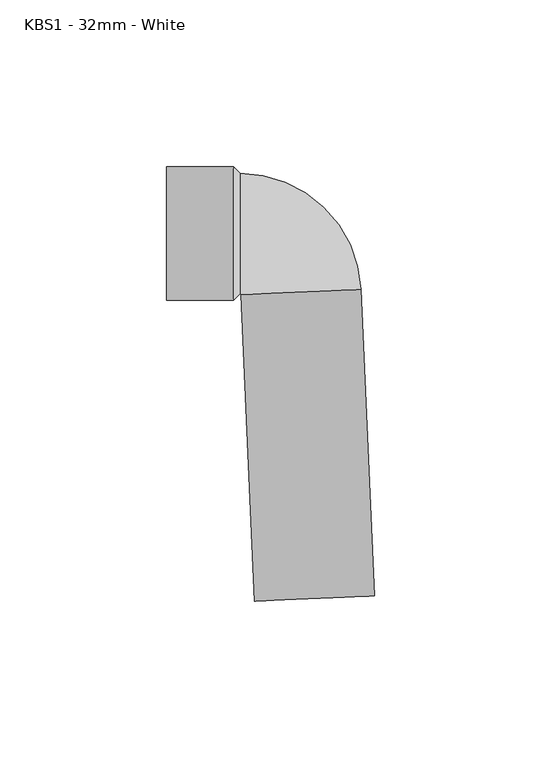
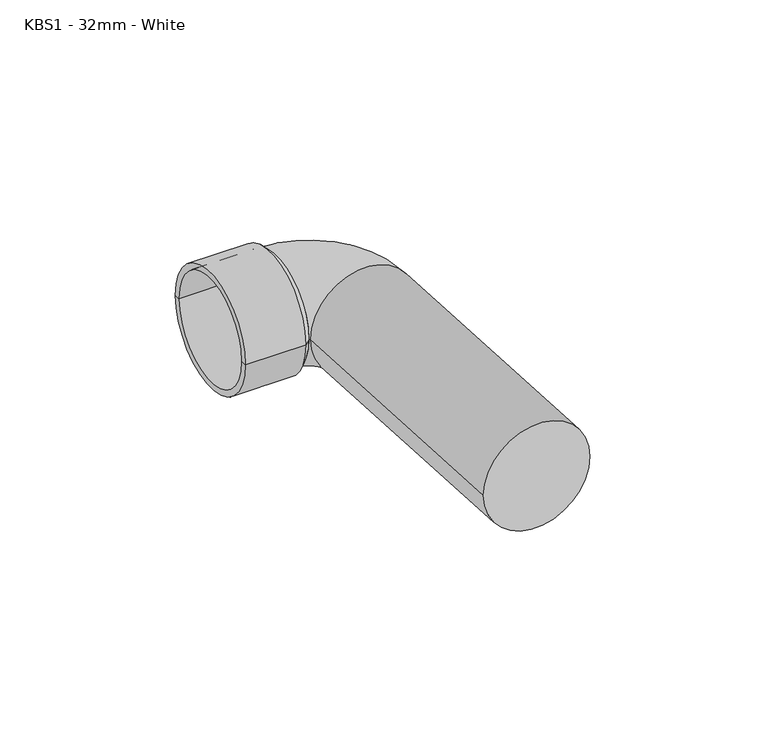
"""IFC4 building model written with IfcOpenShell, lengths in millimetres: pipe fitting geometry, MarleyPlumbingAndDrainage_PipeFitting_LongSpigotBend87.5 : KBS1 - 32mm - White."""

import ifcopenshell
import ifcopenshell.guid

model = None  # the IFC model being written
_history = None  # IfcOwnerHistory: only IFC2X3 demands one
_inside = {}  # id of a spatial element -> (the spatial element, [elements in it])
_under = {}  # id of a project, library or spatial element -> (it, [spatial elements below it])
_declared = {}  # id of a project -> (the project, [libraries it declares])
_typed = {}  # id of a type object -> (the type object, [elements of that type])
_made_of = {}  # id of a material, layer set ... -> (it, [elements and type objects made of it])


def new_model(schema):
    """Start an empty IFC model of exactly this schema.

    Asked for "IFC4X3", IfcOpenShell would pick the latest addendum, in which some entities
    have other attributes; the version numbers below select the first issue.
    IFC2X3 requires an IfcOwnerHistory on every rooted entity: one is made here for all.
    """
    global model, _history
    if schema == "IFC4X3":
        model = ifcopenshell.file(schema_version=(4, 3, 0, 0))
    else:
        model = ifcopenshell.file(schema=schema)
    _inside.clear()
    _under.clear()
    _declared.clear()
    _typed.clear()
    _made_of.clear()
    _history = None
    if model.schema == "IFC2X3":
        org = make("IfcOrganization", Name="unknown")
        user = make(
            "IfcPersonAndOrganization",
            ThePerson=make("IfcPerson", FamilyName="unknown"),
            TheOrganization=org,
        )
        app = make(
            "IfcApplication",
            ApplicationDeveloper=org,
            Version="unknown",
            ApplicationFullName="unknown",
            ApplicationIdentifier="unknown",
        )
        _history = make(
            "IfcOwnerHistory",
            OwningUser=user,
            OwningApplication=app,
            ChangeAction="ADDED",
            CreationDate=0,
        )
    return model


def make(cls, **values):
    """One entity of the class cls with the attributes given. An attribute that is None is left unset."""
    return model.create_entity(
        cls, **{name: value for name, value in values.items() if value is not None}
    )


def rooted(cls, **values):
    """An entity with a GlobalId (a new one), such as an element, a storey or a relation."""
    return make(cls, GlobalId=ifcopenshell.guid.new(), OwnerHistory=_history, **values)


def si_unit(unit_type, name, prefix=None):
    """IfcSIUnit, for example si_unit("LENGTHUNIT", "METRE", prefix="MILLI")."""
    return make("IfcSIUnit", UnitType=unit_type, Prefix=prefix, Name=name)


def assignment(units):
    """IfcUnitAssignment: the units of a project."""
    return None if units is None else make("IfcUnitAssignment", Units=units)


def point(xyz):
    """IfcCartesianPoint."""
    return None if xyz is None else make("IfcCartesianPoint", Coordinates=xyz)


def direction(xyz):
    """IfcDirection."""
    return None if xyz is None else make("IfcDirection", DirectionRatios=xyz)


def frame(location, z_axis=None, x_axis=None):
    """IfcAxis2Placement3D, a coordinate frame: its origin and axes. An axis left out is left unset."""
    return make(
        "IfcAxis2Placement3D",
        Location=point(location),
        Axis=direction(z_axis),
        RefDirection=direction(x_axis),
    )


def origin():
    """The frame at (0, 0, 0) with its axes left unset."""
    return frame((0.0, 0.0, 0.0))


def place(relative_to, where):
    """IfcLocalPlacement: puts the frame where relative to a parent placement (None: the world)."""
    return make(
        "IfcLocalPlacement", PlacementRelTo=relative_to, RelativePlacement=where
    )


def context(
    kind, dimensions, precision=None, world=None, true_north=None, identifier=None
):
    """IfcGeometricRepresentationContext, for example the 3D "Model" context."""
    return make(
        "IfcGeometricRepresentationContext",
        ContextIdentifier=identifier,
        ContextType=kind,
        CoordinateSpaceDimension=dimensions,
        Precision=precision,
        WorldCoordinateSystem=world,
        TrueNorth=true_north,
    )


def project(units=None, contexts=None):
    """IfcProject with its units and contexts."""
    return rooted(
        "IfcProject",
        Name="project",
        RepresentationContexts=contexts,
        UnitsInContext=assignment(units),
    )


def spatial(cls, under=None, at=None, **own):
    """A site, building, storey or space (cls), placed at a placement, below another one or the project."""
    s = rooted(cls, ObjectPlacement=at, **own)
    if under is not None:
        _under.setdefault(under.id(), (under, []))[1].append(s)
    return s


def polyline(points):
    """IfcPolyline through the points."""
    return make("IfcPolyline", Points=[point(p) for p in points])


def circle_curve(where, radius):
    """IfcCircle in the frame where."""
    return make("IfcCircle", Position=where, Radius=radius)


def ellipse_curve(where, semi_axis1, semi_axis2):
    """IfcEllipse in the frame where."""
    return make(
        "IfcEllipse", Position=where, SemiAxis1=semi_axis1, SemiAxis2=semi_axis2
    )


def trimmed(basis, trim1, trim2, sense, master):
    """IfcTrimmedCurve: the piece of a basis curve between two trims."""
    return make(
        "IfcTrimmedCurve",
        BasisCurve=basis,
        Trim1=trim1,
        Trim2=trim2,
        SenseAgreement=sense,
        MasterRepresentation=master,
    )


def shape(context_of_items, identifier, shape_type, items):
    """IfcShapeRepresentation: the items that make up one representation, for example the "Body"."""
    return make(
        "IfcShapeRepresentation",
        ContextOfItems=context_of_items,
        RepresentationIdentifier=identifier,
        RepresentationType=shape_type,
        Items=items,
    )


def source(mapping_origin, context_of_items, identifier, shape_type, items):
    """IfcRepresentationMap: a shape defined once, which mapped items show again and again."""
    return make(
        "IfcRepresentationMap",
        MappingOrigin=mapping_origin,
        MappedRepresentation=shape(context_of_items, identifier, shape_type, items),
    )


def transform(
    local_origin,
    x_axis=None,
    y_axis=None,
    z_axis=None,
    scale=None,
    scale2=None,
    scale3=None,
    uniform=True,
):
    """IfcCartesianTransformationOperator3D, or its non-uniform kind. x_axis, y_axis, z_axis: its Axis1, 2, 3."""
    if uniform:
        return make(
            "IfcCartesianTransformationOperator3D",
            Axis1=direction(x_axis),
            Axis2=direction(y_axis),
            LocalOrigin=point(local_origin),
            Scale=scale,
            Axis3=direction(z_axis),
        )
    return make(
        "IfcCartesianTransformationOperator3DnonUniform",
        Axis1=direction(x_axis),
        Axis2=direction(y_axis),
        LocalOrigin=point(local_origin),
        Scale=scale,
        Axis3=direction(z_axis),
        Scale2=scale2,
        Scale3=scale3,
    )


def mapped(mapping_source, mapping_target):
    """IfcMappedItem: shows the shape of a source again, moved by a transform."""
    return make(
        "IfcMappedItem", MappingSource=mapping_source, MappingTarget=mapping_target
    )


def made_of(thing, what):
    """Note that an element or type object is made of a material, layer set ...; save() writes the relation."""
    if what is not None:
        _made_of.setdefault(what.id(), (what, []))[1].append(thing)
    return thing


def element(
    cls,
    number,
    at=None,
    inside=None,
    cuts=None,
    type_object=None,
    material=None,
    context=None,
    identifier="Body",
    shape_type=None,
    held_by="IfcProductDefinitionShape",
    body=None,
    shapes=None,
    **own,
):
    """One element of the class cls, such as IfcWall. Its Tag is "e" and its number.

    at: its placement. inside: the storey or other place that contains it. cuts: it is an
    opening in that element (IfcRelVoidsElement). A single representation is given by context,
    identifier, shape_type and body (its items); several are given by shapes. held_by: the class
    of the entity that holds the representations. save() writes the other relations.
    """
    e = rooted(cls, Tag="e%d" % number, ObjectPlacement=at, **own)
    if body is not None:
        shapes = [shape(context, identifier, shape_type, body)]
    if shapes is not None:
        e.Representation = make(held_by, Representations=shapes)
    if inside is not None:
        _inside.setdefault(inside.id(), (inside, []))[1].append(e)
    if cuts is not None:
        rooted(
            "IfcRelVoidsElement", RelatingBuildingElement=cuts, RelatedOpeningElement=e
        )
    if type_object is not None:
        _typed.setdefault(type_object.id(), (type_object, []))[1].append(e)
    return made_of(e, material)


def aggregate(whole, parts):
    """IfcRelAggregates: a whole, such as a stair, and the parts it consists of."""
    return rooted("IfcRelAggregates", RelatingObject=whole, RelatedObjects=parts)


def save(model, path):
    """Write the relations noted so far, then the file.

    IfcRelAggregates (storeys below a building ...), IfcRelContainedInSpatialStructure (elements
    in a storey), IfcRelDefinesByType, IfcRelAssociatesMaterial and IfcRelDeclares: one each for
    every whole, place, type object, material and project.
    """
    for whole, parts in _under.values():
        aggregate(whole, parts)
    for where, things in _inside.values():
        rooted(
            "IfcRelContainedInSpatialStructure",
            RelatedElements=things,
            RelatingStructure=where,
        )
    for kind, things in _typed.values():
        rooted("IfcRelDefinesByType", RelatedObjects=things, RelatingType=kind)
    for what, things in _made_of.values():
        rooted("IfcRelAssociatesMaterial", RelatedObjects=things, RelatingMaterial=what)
    for by, libraries in _declared.values():
        rooted("IfcRelDeclares", RelatingContext=by, RelatedDefinitions=libraries)
    model.write(path)


def plane_surface(at):
    """IfcPlane: the flat surface through the origin of the frame at, square to its z axis."""
    return make("IfcPlane", Position=at)


def cylinder_surface(at, radius):
    """IfcCylindricalSurface: all points at the distance radius from the z axis of the frame at."""
    return make("IfcCylindricalSurface", Position=at, Radius=radius)


def revolved_surface(curve, axis_point, axis_direction):
    """IfcSurfaceOfRevolution: the curve turned about the line through axis_point along axis_direction."""
    return make(
        "IfcSurfaceOfRevolution",
        SweptCurve=make("IfcArbitraryOpenProfileDef", ProfileType="CURVE", Curve=curve),
        AxisPosition=make("IfcAxis1Placement", Location=point(axis_point), Axis=direction(axis_direction)),
    )


def advanced_brep(points, edges, surfaces, faces):
    """IfcAdvancedBrep: a solid bounded by faces that lie on surfaces and meet in shared edges.

    An edge is (start, end): straight between two places in points (the first is 0);
    or (start, end, curve); or (start, end, curve, False) where it runs against its curve.
    A face is (place in surfaces, loops), or (place, loops, False) where it looks against
    its surface's normal. A loop lists edges by number (the first is 1), with a minus sign
    where the edge is run from its end to its start. The first loop is the outer one.
    """
    corners = [point(p) for p in points]
    vertices = [make("IfcVertexPoint", VertexGeometry=c) for c in corners]
    made = []
    for start, end, *more in edges:
        made.append(
            make(
                "IfcEdgeCurve",
                EdgeStart=vertices[start],
                EdgeEnd=vertices[end],
                EdgeGeometry=more[0] if more else make("IfcPolyline", Points=[corners[start], corners[end]]),
                SameSense=more[1] if len(more) > 1 else True,
            )
        )
    hull = []
    for where, loops, *sense in faces:
        bounds = []
        for j, loop in enumerate(loops):
            ring = [make("IfcOrientedEdge", EdgeElement=made[abs(k) - 1], Orientation=k > 0) for k in loop]
            bounds.append(
                make(
                    "IfcFaceOuterBound" if j == 0 else "IfcFaceBound",
                    Bound=make("IfcEdgeLoop", EdgeList=ring),
                    Orientation=True,
                )
            )
        hull.append(make("IfcAdvancedFace", Bounds=bounds, FaceSurface=surfaces[where], SameSense=sense[0] if sense else True))
    return make("IfcAdvancedBrep", Outer=make("IfcClosedShell", CfsFaces=hull))


def kbs1_32mm_white_f2bac062(model_context):
    return source(origin(), model_context, "Body", "AdvancedBrep", [
        advanced_brep(
        [(-54.285227, -18.0, 0.0), (-54.285227, -20.0, 0.0), (-54.285227, 20.0, 0.0), (-54.285227, 18.0, 0.0), (-34.285227, -18.0, 0.0), (-34.285227, 18.0, 0.0), (-34.285227, 0.0, 0.0), (-32.285227, -18.0, 0.0), (-32.285227, 0.0, 0.0), (-32.285227, 18.0, 0.0), (-34.285227, -20.0, 0.0), (-34.285227, 20.0, 0.0)],
        [
            (0, 1),
            (1, 2, circle_curve(frame((-54.285227, 0.0, 0.0), z_axis=(-1.0, 0.0, 0.0), x_axis=(0.0, 1.0, 0.0)), 20.0)),
            (2, 3),
            (3, 0, circle_curve(frame((-54.285227, 0.0, 0.0), z_axis=(1.0, 0.0, 0.0), x_axis=(0.0, 1.0, 0.0)), 18.0)),
            (2, 1, circle_curve(frame((-54.285227, 0.0, 0.0), z_axis=(-1.0, 0.0, 0.0), x_axis=(0.0, 1.0, 0.0)), 20.0)),
            (0, 3, circle_curve(frame((-54.285227, 0.0, 0.0), z_axis=(1.0, 0.0, 0.0), x_axis=(0.0, 1.0, 0.0)), 18.0)),
            (4, 0),
            (3, 5),
            (5, 4, circle_curve(frame((-34.285227, 0.0, 0.0), z_axis=(1.0, 0.0, 0.0), x_axis=(0.0, 1.0, 0.0)), 18.0)),
            (4, 5, circle_curve(frame((-34.285227, 0.0, 0.0), z_axis=(1.0, 0.0, 0.0), x_axis=(0.0, 1.0, 0.0)), 18.0)),
            (6, 4),
            (5, 6),
            (7, 8),
            (8, 9),
            (9, 7, circle_curve(frame((-32.285227, 0.0, 0.0), z_axis=(1.0, 0.0, 0.0), x_axis=(0.0, 1.0, 0.0)), 18.0)),
            (7, 9, circle_curve(frame((-32.285227, 0.0, 0.0), z_axis=(1.0, 0.0, 0.0), x_axis=(0.0, 1.0, 0.0)), 18.0)),
            (10, 7),
            (9, 11),
            (11, 10, circle_curve(frame((-34.285227, 0.0, 0.0), z_axis=(1.0, 0.0, 0.0), x_axis=(0.0, 1.0, 0.0)), 20.0)),
            (10, 11, circle_curve(frame((-34.285227, 0.0, 0.0), z_axis=(1.0, 0.0, 0.0), x_axis=(0.0, 1.0, 0.0)), 20.0)),
            (1, 10),
            (11, 2),
        ],
        [
            plane_surface(frame((-54.285227, 0.0, 0.0), z_axis=(-1.0, 0.0, 0.0), x_axis=(0.0, 1.0, 0.0))),
            revolved_surface(polyline([(-54.285227, 18.0, 0.0), (-34.285227, 18.0, 0.0)]), (-92.2682669, 0.0, 0.0), (-1.0, 0.0, 0.0)),
            plane_surface(frame((-34.285227, 0.0, 0.0), z_axis=(-1.0, 0.0, 0.0), x_axis=(0.0, 1.0, 0.0))),
            plane_surface(frame((-32.285227, 0.0, 0.0), z_axis=(1.0, 0.0, 0.0), x_axis=(0.0, 1.0, 0.0))),
            revolved_surface(polyline([(-32.285227, 18.0, 0.0), (-34.285227, 20.0, 0.0)]), (-92.2682669, 0.0, 0.0), (-1.0, 0.0, 0.0)),
            cylinder_surface(frame((-92.2682669, 0.0, 0.0), z_axis=(-1.0, 0.0, 0.0), x_axis=(0.0, 1.0, 0.0)), 20.0),
        ],
        [
            (0, [[1, 2, 3, 4]]),
            (0, [[-3, 5, -1, 6]]),
            (1, [[7, -4, 8, 9]]),
            (1, [[-8, -6, -7, 10]]),
            (2, [[11, -9, 12]]),
            (2, [[-12, -10, -11]]),
            (3, [[13, 14, 15]]),
            (3, [[-14, -13, 16]]),
            (4, [[17, -15, 18, 19]]),
            (4, [[-18, -16, -17, 20]]),
            (5, [[21, -19, 22, -2]]),
            (5, [[-22, -20, -21, -5]]),
        ],
    ),
        advanced_brep(
        [(-32.285227, 18.0, 0.0), (-32.285227, -18.0, 0.0), (-31.9855125, -18.2869142, 0.0), (3.9802235, -16.7166162, 0.0), (7.9932071, -108.6290526, 0.0), (-27.9725289, -110.1993506, 0.0)],
        [
            (0, 1, circle_curve(frame((-32.285227, 0.0, 0.0), z_axis=(-1.0, 0.0, 0.0), x_axis=(0.0, -1.0, 0.0)), 18.0)),
            (1, 0, circle_curve(frame((-32.285227, 0.0, 0.0), z_axis=(-1.0, 0.0, 0.0), x_axis=(0.0, -1.0, 0.0)), 18.0)),
            (2, 3, circle_curve(frame((-14.0026445, -17.5017652, 0.0), z_axis=(-0.04361938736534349, 0.9990482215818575, 0.0), x_axis=(-0.9990482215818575, -0.04361938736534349, 0.0)), 18.0)),
            (3, 0, circle_curve(frame((-32.285227, -18.3, 0.0), z_axis=(0.0, 0.0, 1.0), x_axis=(0.0, 1.0, 0.0)), 36.3)),
            (1, 2, circle_curve(frame((-32.285227, -18.3, 0.0), z_axis=(0.0, 0.0, -1.0), x_axis=(0.0, 1.0, 0.0)), 0.3)),
            (3, 2, circle_curve(frame((-14.0026445, -17.5017652, 0.0), z_axis=(-0.0436193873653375, 0.9990482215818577, 0.0), x_axis=(-0.9990482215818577, -0.0436193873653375, 0.0)), 18.0)),
            (4, 5, circle_curve(frame((-9.9896609, -109.4142016, 0.0), z_axis=(0.04361938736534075, -0.9990482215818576, 0.0), x_axis=(-0.9990482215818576, -0.04361938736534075, 0.0)), 18.0)),
            (5, 4, circle_curve(frame((-9.9896609, -109.4142016, 0.0), z_axis=(0.04361938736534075, -0.9990482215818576, 0.0), x_axis=(-0.9990482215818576, -0.04361938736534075, 0.0)), 18.0)),
            (2, 5),
            (4, 3),
        ],
        [
            plane_surface(frame((-32.285227, 0.0, 0.0), z_axis=(-1.0, 0.0, 0.0), x_axis=(0.0, 0.0, 1.0))),
            revolved_surface(trimmed(ellipse_curve(frame((-32.285227, 0.0, 0.0), z_axis=(1.0, 0.0, 0.0), x_axis=(0.0, -1.0, 0.0)), 18.0, 18.0), [point((-32.285227, 18.0, 0.0))], [point((-32.285227, -18.0, 0.0))], True, "CARTESIAN"), (-32.285227, -18.3, 0.0), (0.0, 0.0, 1.0)),
            revolved_surface(trimmed(ellipse_curve(frame((-32.285227, 0.0, 0.0), z_axis=(1.0, 0.0, 0.0), x_axis=(0.0, -1.0, 0.0)), 18.0, 18.0), [point((-32.285227, -18.0, 0.0))], [point((-32.285227, 18.0, 0.0))], True, "CARTESIAN"), (-32.285227, -18.3, 0.0), (0.0, 0.0, 1.0)),
            plane_surface(frame((-9.9896609, -109.4142016, 0.0), z_axis=(0.043619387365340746, -0.9990482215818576, 0.0), x_axis=(0.0, 0.0, 1.0))),
            cylinder_surface(frame((-14.0026445, -17.5017652, 0.0), z_axis=(-0.04361938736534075, 0.9990482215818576, 0.0), x_axis=(-0.9990482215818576, -0.04361938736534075, 0.0)), 18.0),
        ],
        [
            (0, [[1, 2]]),
            (1, [[3, 4, -2, 5]]),
            (2, [[6, -5, -1, -4]]),
            (3, [[7, 8]]),
            (4, [[9, -7, 10, -3]]),
            (4, [[-10, -8, -9, -6]]),
        ],
    ),
    ])


if __name__ == "__main__":
    model = new_model("IFC4")
    model_context = context("Model", 3, world=origin())
    ifc_project = project(units=[si_unit("LENGTHUNIT", "METRE", prefix="MILLI")], contexts=[model_context])
    site = spatial("IfcSite", under=ifc_project)
    building = spatial("IfcBuilding", under=site)
    placement = place(None, origin())
    kbs1_32mm_white_shape = kbs1_32mm_white_f2bac062(model_context)
    element("IfcPipeFitting", 1, ObjectType="MarleyPlumbingAndDrainage_PipeFitting_LongSpigotBend87.5 : KBS1 - 32mm - White", at=placement, inside=building, context=model_context, shape_type="MappedRepresentation", body=[
        mapped(kbs1_32mm_white_shape, transform((0.0, 0.0, 0.0), x_axis=(1.0, 0.0, 0.0), y_axis=(0.0, 1.0, 0.0), z_axis=(0.0, 0.0, 1.0))),
    ])
    save(model, "model.ifc")
